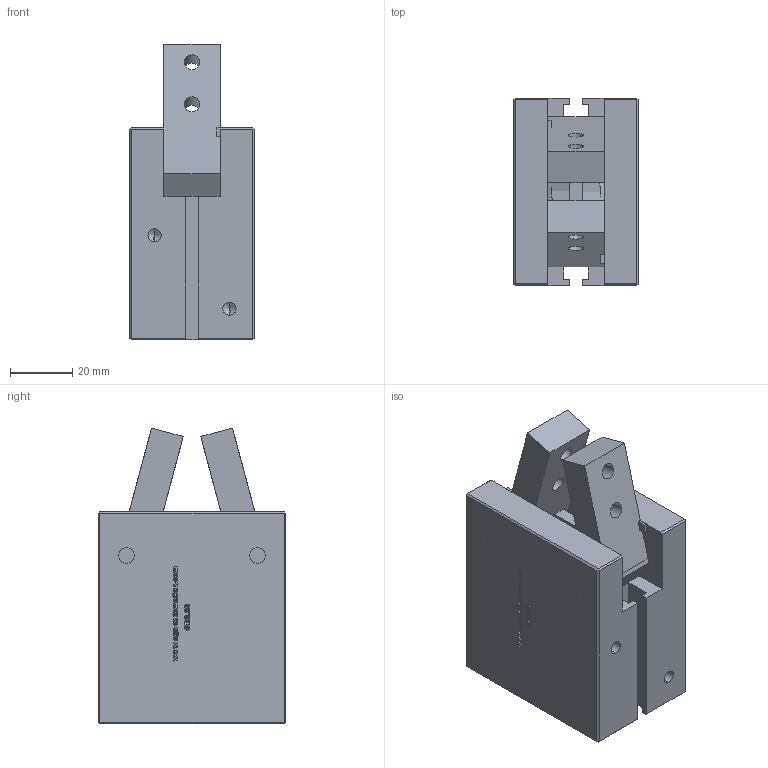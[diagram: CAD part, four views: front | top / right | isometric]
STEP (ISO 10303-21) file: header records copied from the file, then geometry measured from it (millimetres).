
FILE_DESCRIPTION (( 'STEP AP203' ), '1' );
FILE_NAME ('GDS.32-CLOSE.STEP', '2011-10-20T11:52:44', ( 'Christophe Gaillard' ), ( 'SGA' ), 'SwSTEP 2.0', 'SolidWorks 2010', '' );
FILE_SCHEMA (( 'CONFIG_CONTROL_DESIGN' ));
Products named in the file (6): Pièce1; Pièce31; GDS.32-CLOSE; mors; Pièce7; Pièce11
Assembly tree (8 placements, depth 2):
  GDS.32-CLOSE
    Pièce11  x2
    Pièce1
    mors  x2
    Pièce7  x2
    Pièce31
Bounding box: 40 x 60 x 94.81 mm (x, y, z)
Volume: 151269.6 mm3; surface area: 38605.4 mm2
Topology: 8 solids, 8 shells, 596 faces, 1575 edges, 1026 vertices
Faces by surface type: plane 309, bspline 223, cylinder 48, cone 16
Entity records: 33239 total; most frequent: CARTESIAN_POINT 19935, ORIENTED_EDGE 2986, DIRECTION 1845, EDGE_CURVE 1493, VERTEX_POINT 982, VECTOR 961, LINE 961, EDGE_LOOP 629
